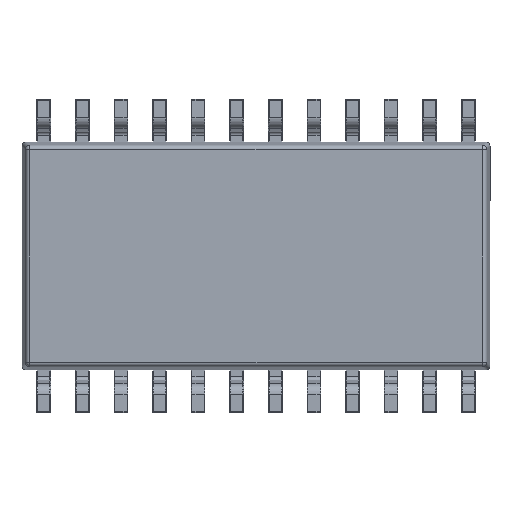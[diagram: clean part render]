
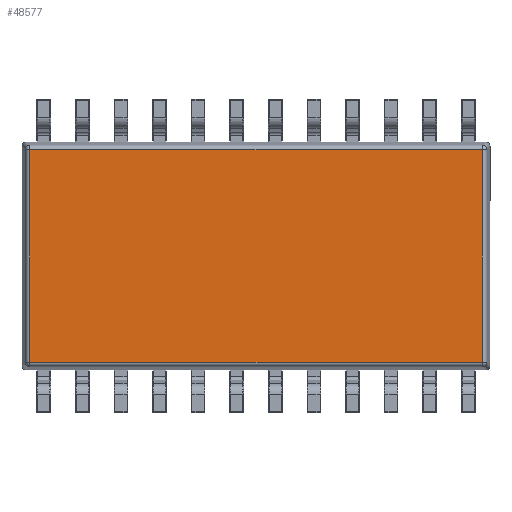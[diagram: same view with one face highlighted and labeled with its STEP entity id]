
A CAD part, front view. The second image highlights one B-rep face of the part: STEP entity #48577.
In plain terms, the highlighted planar face has unit normal (0, -1, 0).
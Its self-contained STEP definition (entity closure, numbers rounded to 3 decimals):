
#974 = CARTESIAN_POINT ( 'NONE',  ( -7.443, 0.25, -3.493 ) ) ;
#1340 = LINE ( 'NONE', #35172, #35960 ) ;
#6121 = ORIENTED_EDGE ( 'NONE', *, *, #39757, .T. ) ;
#6400 = DIRECTION ( 'NONE',  ( 0., 0., 1. ) ) ;
#9567 = DIRECTION ( 'NONE',  ( 0., 0., -1. ) ) ;
#11139 = EDGE_LOOP ( 'NONE', ( #30631, #6121, #53413, #54200 ) ) ;
#11792 = CARTESIAN_POINT ( 'NONE',  ( -7.574, 0.25, 3.493 ) ) ;
#13788 = PLANE ( 'NONE',  #16943 ) ;
#14445 = EDGE_CURVE ( 'NONE', #46309, #31949, #48904, .T. ) ;
#16943 = AXIS2_PLACEMENT_3D ( 'NONE', #47544, #39756, #9567 ) ;
#18363 = CARTESIAN_POINT ( 'NONE',  ( -7.443, 0.25, 3.493 ) ) ;
#20083 = DIRECTION ( 'NONE',  ( -1., 0., 0. ) ) ;
#24012 = VERTEX_POINT ( 'NONE', #974 ) ;
#26193 = CARTESIAN_POINT ( 'NONE',  ( -7.443, 0.25, -3.624 ) ) ;
#26690 = FACE_OUTER_BOUND ( 'NONE', #11139, .T. ) ;
#28584 = VECTOR ( 'NONE', #43143, 1000. ) ;
#30382 = LINE ( 'NONE', #26193, #28584 ) ;
#30631 = ORIENTED_EDGE ( 'NONE', *, *, #14445, .T. ) ;
#30988 = DIRECTION ( 'NONE',  ( 1., 0., 0. ) ) ;
#31949 = VERTEX_POINT ( 'NONE', #18363 ) ;
#33372 = EDGE_CURVE ( 'NONE', #37643, #46309, #48529, .T. ) ;
#35172 = CARTESIAN_POINT ( 'NONE',  ( 7.574, 0.25, -3.493 ) ) ;
#35960 = VECTOR ( 'NONE', #30988, 1000. ) ;
#37643 = VERTEX_POINT ( 'NONE', #54652 ) ;
#39756 = DIRECTION ( 'NONE',  ( 0., -1., 0. ) ) ;
#39757 = EDGE_CURVE ( 'NONE', #31949, #24012, #30382, .T. ) ;
#40435 = VECTOR ( 'NONE', #6400, 1000. ) ;
#40568 = VECTOR ( 'NONE', #20083, 1000. ) ;
#43143 = DIRECTION ( 'NONE',  ( 0., 0., -1. ) ) ;
#43691 = EDGE_CURVE ( 'NONE', #24012, #37643, #1340, .T. ) ;
#44350 = CARTESIAN_POINT ( 'NONE',  ( 7.443, 0.25, 3.624 ) ) ;
#46309 = VERTEX_POINT ( 'NONE', #48268 ) ;
#47544 = CARTESIAN_POINT ( 'NONE',  ( 0., 0.25, 0. ) ) ;
#48268 = CARTESIAN_POINT ( 'NONE',  ( 7.443, 0.25, 3.493 ) ) ;
#48529 = LINE ( 'NONE', #44350, #40435 ) ;
#48577 = ADVANCED_FACE ( 'NONE', ( #26690 ), #13788, .T. ) ;
#48904 = LINE ( 'NONE', #11792, #40568 ) ;
#53413 = ORIENTED_EDGE ( 'NONE', *, *, #43691, .T. ) ;
#54200 = ORIENTED_EDGE ( 'NONE', *, *, #33372, .T. ) ;
#54652 = CARTESIAN_POINT ( 'NONE',  ( 7.443, 0.25, -3.493 ) ) ;
